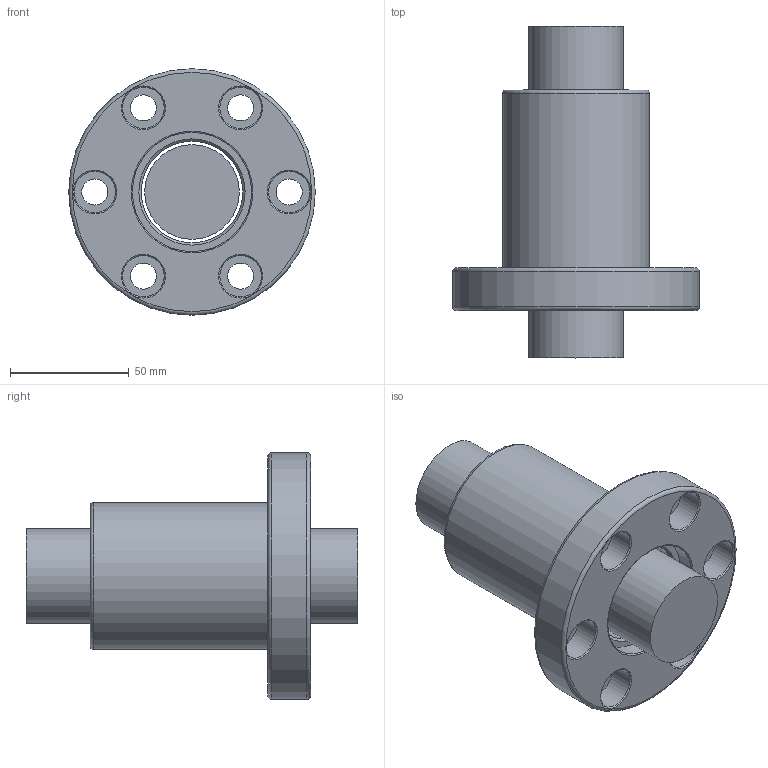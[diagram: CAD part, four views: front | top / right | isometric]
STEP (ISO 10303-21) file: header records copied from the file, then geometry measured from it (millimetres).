
FILE_DESCRIPTION(/* description */ (''),/* implementation_level */ '2;1');
FILE_NAME(/* name */ '4010T4N.prt.step',/* time_stamp */ '2008-12-05T09:37:07+08:00',/* author */ (''),/* organization */ (''),/* preprocessor_version */ 'ST-DEVELOPER v11',/* originating_system */ 'SIEMENS UGS NX 6.0',/* authorisation */ '');
FILE_SCHEMA (('AUTOMOTIVE_DESIGN { 1 0 10303 214 1 1 1 1 }'));
Length unit declared in the file: millimetre
Products named in the file (1): 4010T4N
Bounding box: 104 x 140 x 104 mm (x, y, z)
Volume: 392524.4 mm3; surface area: 70543 mm2
Topology: 2 solids, 2 shells, 50 faces, 104 edges, 67 vertices
Faces by surface type: cylinder 18, cone 14, plane 13, torus 5
Full cylindrical faces by diameter (mm): 11 x6, 17.5 x6, 39.95 x1, 42.8 x1, 50.3 x2, 62 x1, 104 x1
Entity records: 1112 total; most frequent: DIRECTION 212, CARTESIAN_POINT 161, EDGE_LOOP 110, ORIENTED_EDGE 110, FACE_BOUND 108, AXIS2_PLACEMENT_3D 106, VERTEX_POINT 55, EDGE_CURVE 55
